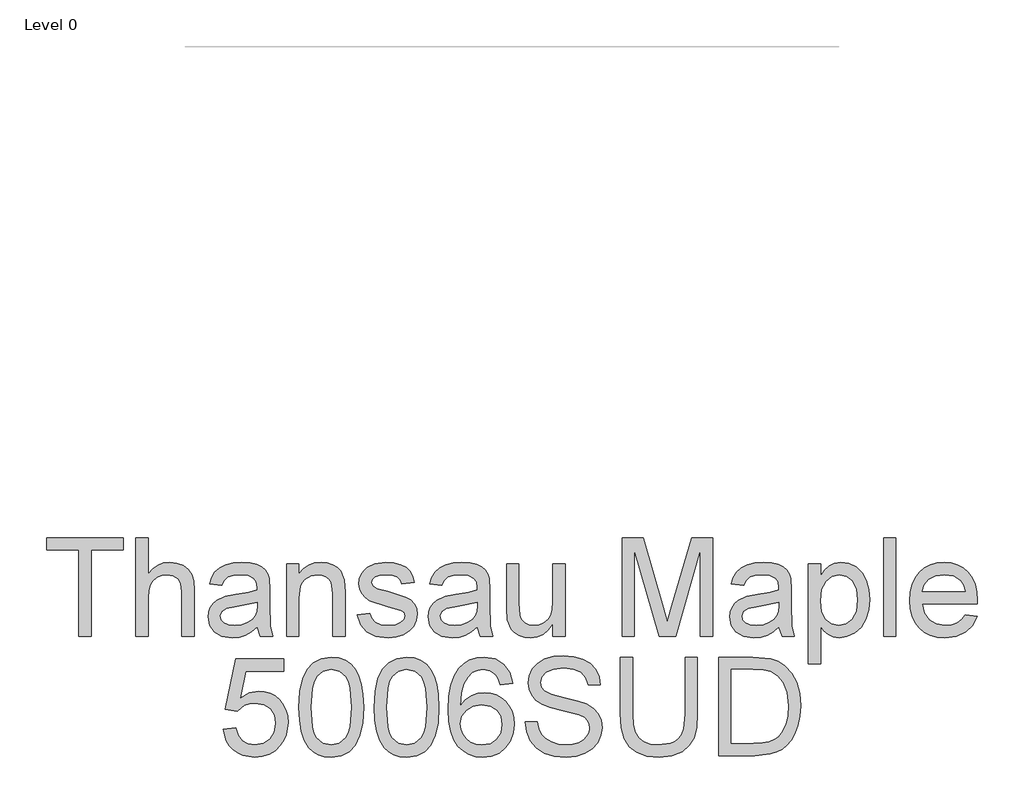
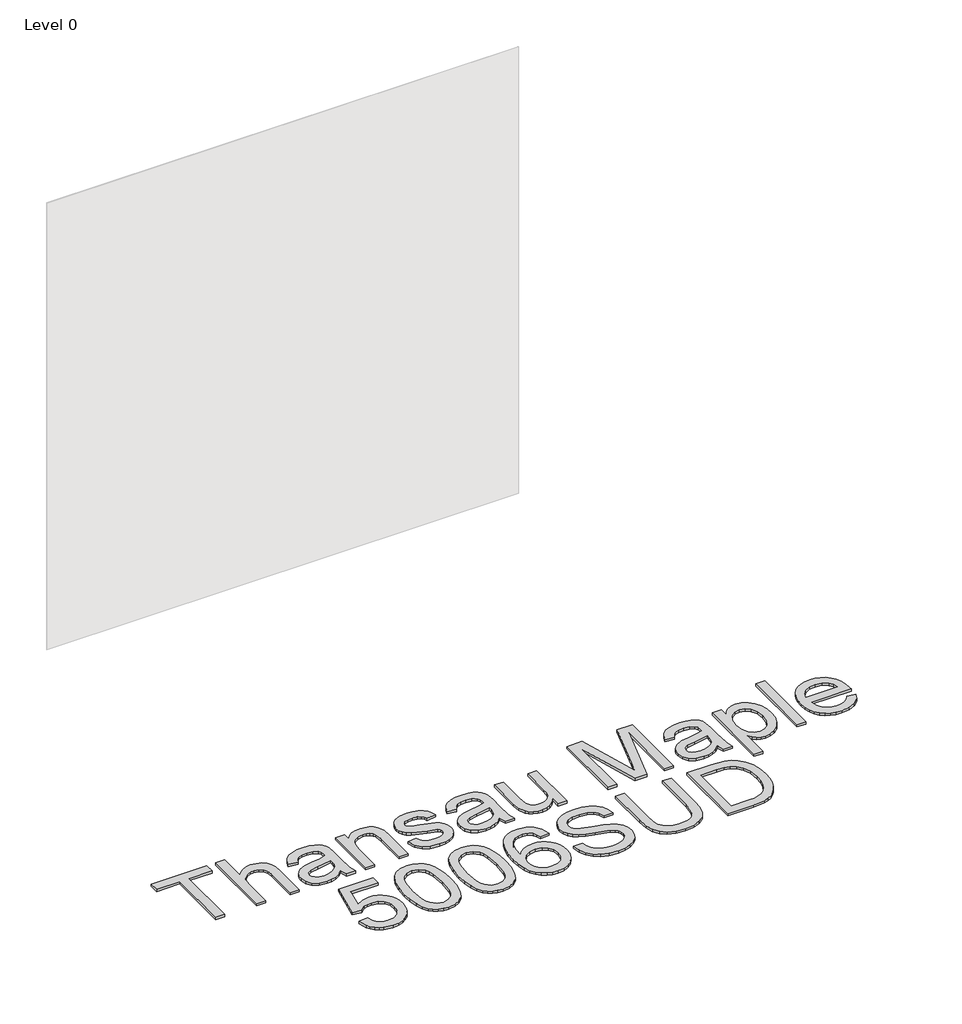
# One storey, part 29 of 43: 1 proxy.
"""IFC4 building model written with IfcOpenShell, lengths in millimetres."""

from ifc_helpers import new_model, si_unit, origin, origin_with_axes, place, context, project, spatial, polyline, outline, extrude, element, save

model = new_model("IFC4")

# Units and contexts
model_context = context("Model", 3, world=origin())
ifc_project = project(units=[si_unit("LENGTHUNIT", "METRE", prefix="MILLI")], contexts=[model_context])

# Site, building, storey
site = spatial("IfcSite", under=ifc_project)
building = spatial("IfcBuilding", under=site)
storey = spatial("IfcBuildingStorey", under=building, Name="Level 0", Elevation=0.0)

# Proxy
placement = place(None, origin())
element("IfcBuildingElementProxy", 1, Name="300mm Arial", ObjectType="300mm Arial", at=placement, inside=storey, context=model_context, shape_type="SweptSolid", body=[
    extrude(outline(polyline([(9223.7895387, -11999.860494), (9223.7895387, -11736.1626798), (9124.9028584, -11736.1626798), (9124.9028584, -11698.4915635), (9360.3473353, -11698.4915635), (9360.3473353, -11736.1626798), (9261.460655, -11736.1626798), (9261.460655, -11999.860494), (9223.7895387, -11999.860494)])), origin_with_axes(), (0.0, 0.0, 1.0), 10.0),
    extrude(outline(polyline([(9398.0184516, -11999.860494), (9398.0184516, -11698.4915635), (9435.6895679, -11698.4915635), (9435.6895679, -11809.2976205), (9449.5265294, -11793.7821973), (9465.0649452, -11782.6997522), (9482.3048152, -11776.0502852), (9501.2461394, -11773.8337961), (9523.9996408, -11776.2526203), (9543.5525689, -11783.5090926), (9558.9484304, -11795.0329961), (9569.2307321, -11810.2541137), (9575.0248736, -11831.1682051), (9576.956254, -11859.7710302), (9576.956254, -11999.860494), (9539.2851377, -11999.860494), (9539.2851377, -11863.6705794), (9536.2868995, -11840.0893435), (9527.2921847, -11823.9393239), (9512.7976341, -11814.6135153), (9493.2998883, -11811.5049125), (9477.379795, -11813.6018398), (9462.4345889, -11819.8926219), (9450.0553598, -11829.7702535), (9441.8331972, -11842.6277292), (9437.2254752, -11859.7158479), (9435.6895679, -11882.2854083), (9435.6895679, -11999.860494), (9398.0184516, -11999.860494)])), origin_with_axes(), (0.0, 0.0, 1.0), 10.0),
    extrude(outline(polyline([(9770.0207251, -11971.6071568), (9752.0220985, -11987.0398064), (9733.490043, -11997.1381672), (9714.0014943, -12002.7115794), (9693.1333881, -12004.5693835), (9661.6518864, -12000.0996173), (9638.4293354, -11986.6903186), (9624.1095288, -11966.3280501), (9619.3362599, -11940.9993748), (9621.1388817, -11925.3827841), (9626.546747, -11911.2009331), (9634.8884712, -11899.0608273), (9645.4926697, -11889.5694718), (9671.8698088, -11877.2086368), (9704.4641536, -11871.5432541), (9742.9813985, -11865.5835657), (9769.7999959, -11858.5938078), (9770.0207251, -11850.2060983), (9767.427157, -11833.3938912), (9759.6464528, -11822.3942195), (9742.2456345, -11814.2272392), (9718.002211, -11811.5049125), (9695.5614093, -11813.3167313), (9679.8896363, -11818.7521878), (9669.2026643, -11828.8045633), (9661.7162657, -11844.4671392), (9624.0451494, -11839.7582497), (9630.5842519, -11819.156858), (9640.3423218, -11802.9700502), (9654.2298671, -11790.590821), (9673.1573958, -11781.4121652), (9696.3063703, -11775.7283884), (9722.8582533, -11773.8337961), (9748.3248844, -11775.5076592), (9768.5124089, -11780.5292485), (9783.7335265, -11788.0800264), (9794.3009368, -11797.3414556), (9801.3090888, -11808.7917827), (9805.8524314, -11822.9092543), (9807.6918414, -11855.8714811), (9807.6918414, -11902.7396473), (9809.6048278, -11968.1858542), (9817.1096205, -11999.860494), (9779.4385042, -11999.860494), (9770.0207251, -11971.6071568)]), holes=[polyline([(9770.0207251, -11896.2649241), (9709.2466195, -11907.8164188), (9676.8362157, -11913.9232599), (9662.1577241, -11923.8560738), (9657.0073762, -11938.3506244), (9659.8124764, -11949.5526311), (9668.227777, -11958.7312869), (9682.0693371, -11964.8565221), (9701.1532156, -11966.8982672), (9721.3867253, -11964.64499), (9739.2657903, -11957.8851583), (9753.7603409, -11947.9247533), (9763.8403076, -11936.069756), (9768.3100738, -11923.8560738), (9769.7999959, -11906.933502), (9770.0207251, -11896.2649241)])]), origin_with_axes(), (0.0, 0.0, 1.0), 10.0),
    extrude(outline(polyline([(9859.4896263, -11999.860494), (9859.4896263, -11778.5426857), (9897.1607426, -11778.5426857), (9897.1607426, -11809.4447733), (9910.2481446, -11793.8649708), (9925.9659029, -11782.7365404), (9944.3140174, -11776.0594822), (9965.2924882, -11773.8337961), (9983.8613319, -11775.6272209), (10000.8666771, -11781.0074951), (10015.048528, -11789.303234), (10025.1468888, -11799.8430532), (10036.440866, -11827.5445674), (10038.4274288, -11863.964885), (10038.4274288, -11999.860494), (10000.7563125, -11999.860494), (10000.7563125, -11869.0416565), (9996.4153049, -11835.7115477), (9990.4096314, -11825.7879309), (9981.0746257, -11818.0900002), (9969.1092639, -11813.1511844), (9955.2125215, -11811.5049125), (9933.1487988, -11815.2021265), (9914.3408318, -11826.2937687), (9906.8245428, -11835.3482643), (9901.4557649, -11847.7228949), (9897.1607426, -11882.4325611), (9897.1607426, -11999.860494), (9859.4896263, -11999.860494)])), origin_with_axes(), (0.0, 0.0, 1.0), 10.0),
    extrude(outline(polyline([(10076.0985451, -11933.9360404), (10113.7696614, -11929.2271509), (10119.7109556, -11945.3403823), (10131.207268, -11957.1861825), (10148.3321749, -11964.470246), (10171.1592527, -11966.8982672), (10193.710419, -11964.6725811), (10209.5661329, -11957.9955229), (10218.9471238, -11948.3202265), (10222.0741208, -11937.0998256), (10218.9287297, -11927.4981055), (10209.4925565, -11920.1772538), (10170.7177943, -11909.4350996), (10113.9903906, -11891.0042116), (10099.6337957, -11881.7427824), (10089.2319323, -11869.4831149), (10082.9135591, -11855.0069584), (10080.8074346, -11839.0960621), (10082.4996918, -11824.5003439), (10087.5764633, -11811.0266659), (10095.5778967, -11799.2084568), (10106.0441395, -11789.5791455), (10129.9932574, -11778.4323211), (10162.4036612, -11773.8337961), (10186.9229961, -11775.6824032), (10208.2417578, -11781.2282242), (10225.3850587, -11789.9286334), (10237.3780118, -11801.2410048), (10245.3242629, -11816.0022698), (10250.327458, -11835.0493601), (10212.6563417, -11839.7582497), (10207.9014669, -11827.9032524), (10198.4928849, -11818.972917), (10184.3386251, -11813.3719136), (10165.3467171, -11811.5049125), (10143.7152558, -11813.2891401), (10129.2942816, -11818.6418232), (10121.1824836, -11826.3673451), (10118.4785509, -11835.2700893), (10122.9667113, -11846.2329728), (10137.0198035, -11854.5471059), (10169.4669955, -11862.5669334), (10224.7596593, -11880.2988455), (10239.3645746, -11888.7785255), (10250.4378226, -11900.3852025), (10257.4183835, -11915.1556646), (10259.7452371, -11933.1267001), (10257.0137133, -11951.7047408), (10248.8191418, -11969.1791356), (10235.4742225, -11984.1795239), (10217.2916548, -11995.3355454), (10195.3290997, -12002.260924), (10170.6442179, -12004.5693835), (10132.6604019, -12000.1180114), (10104.9404935, -11986.763895), (10086.4360292, -11964.654187), (10076.0985451, -11933.9360404)])), origin_with_axes(), (0.0, 0.0, 1.0), 10.0),
    extrude(outline(polyline([(10443.3919291, -11971.6071568), (10425.3933025, -11987.0398064), (10406.861247, -11997.1381672), (10387.3726983, -12002.7115794), (10366.5045921, -12004.5693835), (10335.0230904, -12000.0996173), (10311.8005394, -11986.6903186), (10297.4807327, -11966.3280501), (10292.7074639, -11940.9993748), (10294.5100856, -11925.3827841), (10299.917951, -11911.2009331), (10308.2596752, -11899.0608273), (10318.8638737, -11889.5694718), (10345.2410128, -11877.2086368), (10377.8353575, -11871.5432541), (10416.3526024, -11865.5835657), (10443.1711999, -11858.5938078), (10443.3919291, -11850.2060983), (10440.798361, -11833.3938912), (10433.0176568, -11822.3942195), (10415.6168384, -11814.2272392), (10391.373415, -11811.5049125), (10368.9326133, -11813.3167313), (10353.2608403, -11818.7521878), (10342.5738683, -11828.8045633), (10335.0874697, -11844.4671392), (10297.4163534, -11839.7582497), (10303.9554559, -11819.156858), (10313.7135258, -11802.9700502), (10327.6010711, -11790.590821), (10346.5285998, -11781.4121652), (10369.6775743, -11775.7283884), (10396.2294573, -11773.8337961), (10421.6960884, -11775.5076592), (10441.8836129, -11780.5292485), (10457.1047305, -11788.0800264), (10467.6721408, -11797.3414556), (10474.6802928, -11808.7917827), (10479.2236354, -11822.9092543), (10481.0630454, -11855.8714811), (10481.0630454, -11902.7396473), (10482.9760318, -11968.1858542), (10490.4808245, -11999.860494), (10452.8097082, -11999.860494), (10443.3919291, -11971.6071568)]), holes=[polyline([(10443.3919291, -11896.2649241), (10382.6178235, -11907.8164188), (10350.2074197, -11913.9232599), (10335.5289281, -11923.8560738), (10330.3785802, -11938.3506244), (10333.1836804, -11949.5526311), (10341.598981, -11958.7312869), (10355.4405411, -11964.8565221), (10374.5244196, -11966.8982672), (10394.7579293, -11964.64499), (10412.6369943, -11957.8851583), (10427.1315449, -11947.9247533), (10437.2115116, -11936.069756), (10441.6812778, -11923.8560738), (10443.1711999, -11906.933502), (10443.3919291, -11896.2649241)])]), origin_with_axes(), (0.0, 0.0, 1.0), 10.0),
    extrude(outline(polyline([(10674.1275165, -11999.860494), (10674.1275165, -11961.8214957), (10660.4974885, -11980.5236966), (10644.6233804, -11993.8824116), (10626.5051922, -12001.8976405), (10606.1429237, -12004.5693835), (10587.7948092, -12002.6931853), (10570.7158876, -11997.0645908), (10556.3868839, -11988.6033049), (10546.2885231, -11978.2290327), (10535.0681223, -11950.4907302), (10532.8608303, -11915.4683643), (10532.8608303, -11778.5426857), (10570.5319466, -11778.5426857), (10570.5319466, -11897.7364521), (10572.812815, -11936.1433324), (10578.3034538, -11948.9548229), (10587.7120358, -11958.6944987), (10600.4131617, -11964.8473251), (10615.781432, -11966.8982672), (10632.0326192, -11964.8013398), (10647.2353426, -11958.5105577), (10659.7709216, -11948.605335), (10668.0206753, -11935.6650858), (10672.6008062, -11917.9423707), (10674.1275165, -11893.6897502), (10674.1275165, -11778.5426857), (10711.7986328, -11778.5426857), (10711.7986328, -11999.860494), (10674.1275165, -11999.860494)])), origin_with_axes(), (0.0, 0.0, 1.0), 10.0),
    extrude(outline(polyline([(10886.0275457, -11999.860494), (10886.0275457, -11698.4915635), (10950.8483532, -11698.4915635), (11012.5053756, -11910.9066275), (11024.9397871, -11955.2731962), (11038.4042681, -11907.2278076), (11099.0312209, -11698.4915635), (11163.8520284, -11698.4915635), (11163.8520284, -11999.860494), (11126.1809121, -11999.860494), (11126.1809121, -11736.1626798), (11050.4707975, -11999.860494), (10999.4087766, -11999.860494), (10923.698662, -11736.1626798), (10923.698662, -11999.860494), (10886.0275457, -11999.860494)])), origin_with_axes(), (0.0, 0.0, 1.0), 10.0),
    extrude(outline(polyline([(11366.3342786, -11971.6071568), (11348.335652, -11987.0398064), (11329.8035965, -11997.1381672), (11310.3150478, -12002.7115794), (11289.4469416, -12004.5693835), (11257.9654399, -12000.0996173), (11234.7428889, -11986.6903186), (11220.4230822, -11966.3280501), (11215.6498134, -11940.9993748), (11217.4524351, -11925.3827841), (11222.8603005, -11911.2009331), (11231.2020247, -11899.0608273), (11241.8062232, -11889.5694718), (11268.1833623, -11877.2086368), (11300.777707, -11871.5432541), (11339.2949519, -11865.5835657), (11366.1135494, -11858.5938078), (11366.3342786, -11850.2060983), (11363.7407105, -11833.3938912), (11355.9600063, -11822.3942195), (11338.5591879, -11814.2272392), (11314.3157645, -11811.5049125), (11291.8749628, -11813.3167313), (11276.2031898, -11818.7521878), (11265.5162178, -11828.8045633), (11258.0298192, -11844.4671392), (11220.3587029, -11839.7582497), (11226.8978054, -11819.156858), (11236.6558753, -11802.9700502), (11250.5434206, -11790.590821), (11269.4709493, -11781.4121652), (11292.6199238, -11775.7283884), (11319.1718068, -11773.8337961), (11344.6384379, -11775.5076592), (11364.8259624, -11780.5292485), (11380.04708, -11788.0800264), (11390.6144903, -11797.3414556), (11397.6226423, -11808.7917827), (11402.1659849, -11822.9092543), (11404.0053949, -11855.8714811), (11404.0053949, -11902.7396473), (11405.9183813, -11968.1858542), (11413.423174, -11999.860494), (11375.7520577, -11999.860494), (11366.3342786, -11971.6071568)]), holes=[polyline([(11366.3342786, -11896.2649241), (11305.560173, -11907.8164188), (11273.1497692, -11913.9232599), (11258.4712776, -11923.8560738), (11253.3209297, -11938.3506244), (11256.1260299, -11949.5526311), (11264.5413305, -11958.7312869), (11278.3828906, -11964.8565221), (11297.4667691, -11966.8982672), (11317.7002788, -11964.64499), (11335.5793438, -11957.8851583), (11350.0738944, -11947.9247533), (11360.1538611, -11936.069756), (11364.6236273, -11923.8560738), (11366.1135494, -11906.933502), (11366.3342786, -11896.2649241)])]), origin_with_axes(), (0.0, 0.0, 1.0), 10.0),
    extrude(outline(polyline([(11455.8031798, -12084.6205057), (11455.8031798, -11778.5426857), (11493.4742961, -11778.5426857), (11493.4742961, -11815.478038), (11505.7615548, -11797.2586822), (11519.5203414, -11784.2448566), (11535.5599964, -11776.4365613), (11554.6898601, -11773.8337961), (11580.1656883, -11777.4758279), (11602.4409431, -11788.4019232), (11620.5775254, -11805.9498943), (11633.6373363, -11829.4575538), (11641.5284051, -11857.2142504), (11644.1587613, -11887.5093327), (11641.1881142, -11919.7265984), (11632.2761729, -11948.5409557), (11617.7080459, -11972.4900735), (11597.7688417, -11990.1116211), (11574.5462908, -12000.9549429), (11550.1281234, -12004.5693835), (11532.8100784, -12002.1505594), (11517.3498376, -11994.894087), (11504.1152828, -11983.9404006), (11493.4742961, -11970.4299344), (11493.4742961, -12084.6205057), (11455.8031798, -12084.6205057)]), holes=[polyline([(11493.4742961, -11890.9674234), (11497.5485892, -11924.7389906), (11509.7714685, -11948.3570147), (11527.8068833, -11962.2629541), (11549.318783, -11966.8982672), (11571.1801705, -11962.0974072), (11589.6754379, -11947.6948271), (11602.2845932, -11923.2122803), (11606.487645, -11888.1715202), (11602.3857608, -11854.5838941), (11590.080108, -11830.6347762), (11572.0722844, -11816.2873784), (11550.8638874, -11811.5049125), (11529.5727169, -11816.590881), (11510.8751145, -11831.8487868), (11497.8245007, -11856.8003831), (11493.4742961, -11890.9674234)])]), origin_with_axes(), (0.0, 0.0, 1.0), 10.0),
    extrude(outline(polyline([(11686.5387672, -11999.860494), (11686.5387672, -11698.4915635), (11724.2098835, -11698.4915635), (11724.2098835, -11999.860494), (11686.5387672, -11999.860494)])), origin_with_axes(), (0.0, 0.0, 1.0), 10.0),
    extrude(outline(polyline([(11935.6684543, -11933.9360404), (11972.6038066, -11938.64493), (11959.2956755, -11966.4752029), (11938.0596873, -11987.2789297), (11909.3740887, -12000.2467701), (11873.7171263, -12004.5693835), (11850.3428241, -12002.7046817), (11829.5161046, -11997.1105761), (11811.236968, -11987.7870668), (11795.5054142, -11974.7341537), (11782.854872, -11958.3151204), (11773.8187705, -11938.8932503), (11768.3971096, -11916.4685435), (11766.5898893, -11891.0409998), (11768.4155037, -11864.7512327), (11773.8923469, -11841.5792656), (11783.0204189, -11821.5250983), (11795.7997198, -11804.5887309), (11811.4898868, -11791.133447), (11829.3505577, -11781.5225298), (11849.3817323, -11775.7559796), (11871.5834108, -11773.8337961), (11893.0700185, -11775.751381), (11912.5010857, -11781.5041357), (11929.8766122, -11791.0920602), (11945.196598, -11804.5151545), (11957.7022866, -11821.4147337), (11966.6349213, -11841.4321128), (11971.9945021, -11864.5672917), (11973.781029, -11890.8202706), (11973.5602998, -11900.9738137), (11804.2610056, -11900.9738137), (11810.781714, -11929.1719686), (11825.9292552, -11949.902119), (11847.7906427, -11962.6492302), (11874.4528903, -11966.8982672), (11894.5024591, -11964.9300985), (11911.3882426, -11959.0255925), (11925.1102411, -11948.8168672), (11935.6684543, -11933.9360404)]), holes=[polyline([(11804.2610056, -11863.3026974), (11936.1099127, -11863.3026974), (11931.0147471, -11843.4002814), (11921.0267509, -11829.1632482), (11899.0641958, -11815.9194964), (11871.436258, -11811.5049125), (11846.0432032, -11815.0273826), (11825.0463384, -11825.5947929), (11810.4506202, -11842.0667092), (11804.2610056, -11863.3026974)])]), origin_with_axes(), (0.0, 0.0, 1.0), 10.0),
    extrude(outline(polyline([(9666.4251553, -12285.7338254), (9704.0962716, -12281.0249358), (9711.0124531, -12303.6404815), (9723.0789825, -12319.8364863), (9740.2406776, -12329.5761621), (9762.442356, -12332.8227207), (9789.4448945, -12328.3069693), (9809.6784042, -12314.7597148), (9822.3151507, -12293.7444558), (9826.5273996, -12266.8246908), (9822.5818652, -12241.4776213), (9810.745262, -12222.0902402), (9790.9256195, -12209.7845875), (9763.0309672, -12205.6827032), (9744.7564291, -12207.3197781), (9729.9583758, -12212.2310027), (9708.8051611, -12229.2271509), (9671.1340448, -12224.5182614), (9704.0962716, -12069.1249066), (9850.0718473, -12069.1249066), (9850.0718473, -12106.7960229), (9734.5569008, -12106.7960229), (9718.4436694, -12189.790201), (9745.3542373, -12173.4562404), (9773.5523923, -12168.0115869), (9791.8982075, -12169.6992456), (9808.7495022, -12174.7622215), (9824.1062762, -12183.2005148), (9837.9685296, -12195.0141254), (9849.4441486, -12209.4810848), (9857.6410193, -12225.8794248), (9862.5591417, -12244.2091452), (9864.1985159, -12264.470246), (9858.2940099, -12302.1413624), (9850.9133773, -12318.9351754), (9840.5804918, -12334.3678251), (9824.9271129, -12350.1729553), (9806.6617718, -12361.4623341), (9785.7844686, -12368.2359613), (9762.2952032, -12370.4938371), (9725.2954715, -12364.6904986), (9709.6168008, -12357.4363255), (9695.8189267, -12347.2804832), (9684.3387092, -12334.7288093), (9675.6130081, -12320.2871418), (9666.4251553, -12285.7338254)])), origin_with_axes(), (0.0, 0.0, 1.0), 10.0),
    extrude(outline(polyline([(9897.1607426, -12217.5285035), (9899.9290547, -12169.2899768), (9908.2339907, -12130.8187172), (9921.9927773, -12101.5261133), (9941.1226411, -12080.8235541), (9965.7615377, -12068.5179013), (9996.0474229, -12064.4160171), (10019.2607768, -12066.8440382), (10040.0461096, -12074.1281017), (10057.4285338, -12085.983099), (10070.4331624, -12102.1239216), (10080.2556116, -12122.4126136), (10088.0914981, -12146.7112194), (10093.223452, -12177.5673217), (10094.9341033, -12217.5285035), (10092.1933824, -12265.4911186), (10083.9712198, -12303.8704077), (10070.2952066, -12333.1906027), (10051.192934, -12353.9759355), (10026.4988551, -12366.3643617), (9996.0474229, -12370.4938371), (9975.2988784, -12368.7004123), (9956.9047787, -12363.3201381), (9940.8651237, -12354.3530145), (9927.1799134, -12341.7990414), (9914.0465262, -12319.1053209), (9904.6655353, -12290.828991), (9899.0369408, -12256.9700519), (9897.1607426, -12217.5285035)]), holes=[polyline([(9934.8318589, -12217.4549271), (9939.2464429, -12276.7115194), (9944.7646728, -12296.9795181), (9952.4901947, -12311.0073184), (9972.2086697, -12327.3688702), (9996.0474229, -12332.8227207), (10019.8861762, -12327.3504761), (10039.6046512, -12310.933742), (10047.3301731, -12296.8829491), (10052.848403, -12276.6195489), (10057.2629869, -12217.4549271), (10052.9955558, -12159.5319069), (10047.6612669, -12139.3305869), (10040.1932624, -12124.9693935), (10020.5115756, -12107.8076984), (9995.6059646, -12102.0871334), (9972.0247287, -12107.1271167), (9953.0788059, -12122.2470667), (9945.0957666, -12137.8820515), (9939.3935957, -12158.9616898), (9934.8318589, -12217.4549271)])]), origin_with_axes(), (0.0, 0.0, 1.0), 10.0),
    extrude(outline(polyline([(10127.89633, -12217.5285035), (10130.664642, -12169.2899768), (10138.9695781, -12130.8187172), (10152.7283647, -12101.5261133), (10171.8582284, -12080.8235541), (10196.4971251, -12068.5179013), (10226.7830103, -12064.4160171), (10249.9963642, -12066.8440382), (10270.7816969, -12074.1281017), (10288.1641212, -12085.983099), (10301.1687497, -12102.1239216), (10310.991199, -12122.4126136), (10318.8270855, -12146.7112194), (10323.9590393, -12177.5673217), (10325.6696906, -12217.5285035), (10322.9289698, -12265.4911186), (10314.7068072, -12303.8704077), (10301.030794, -12333.1906027), (10281.9285214, -12353.9759355), (10257.2344425, -12366.3643617), (10226.7830103, -12370.4938371), (10206.0344658, -12368.7004123), (10187.640366, -12363.3201381), (10171.600711, -12354.3530145), (10157.9155008, -12341.7990414), (10144.7821136, -12319.1053209), (10135.4011227, -12290.828991), (10129.7725282, -12256.9700519), (10127.89633, -12217.5285035)]), holes=[polyline([(10165.5674463, -12217.4549271), (10169.9820303, -12276.7115194), (10175.5002602, -12296.9795181), (10183.2257821, -12311.0073184), (10202.944257, -12327.3688702), (10226.7830103, -12332.8227207), (10250.6217636, -12327.3504761), (10270.3402386, -12310.933742), (10278.0657604, -12296.8829491), (10283.5839904, -12276.6195489), (10287.9985743, -12217.4549271), (10283.7311432, -12159.5319069), (10278.3968542, -12139.3305869), (10270.9288497, -12124.9693935), (10251.247163, -12107.8076984), (10226.3415519, -12102.0871334), (10202.760316, -12107.1271167), (10183.8143933, -12122.2470667), (10175.831354, -12137.8820515), (10170.1291831, -12158.9616898), (10165.5674463, -12217.4549271)])]), origin_with_axes(), (0.0, 0.0, 1.0), 10.0),
    extrude(outline(polyline([(10551.6963885, -12144.4671392), (10514.0252722, -12149.1760288), (10507.9552192, -12130.5060175), (10499.7514507, -12117.7589064), (10482.6633321, -12106.0050766), (10462.006758, -12102.0871334), (10444.4955751, -12104.3680017), (10428.0144617, -12111.2106069), (10413.8602019, -12125.622384), (10402.2995102, -12145.4604206), (10394.4912149, -12173.5206198), (10391.5941442, -12212.5988847), (10406.7048971, -12194.9681401), (10424.8138883, -12182.5429257), (10444.9094423, -12175.1760888), (10465.9798836, -12172.7204764), (10484.0796777, -12174.3989381), (10500.7815203, -12179.4343229), (10516.0854113, -12187.8266309), (10529.9913507, -12199.5758621), (10541.5474439, -12213.9830407), (10549.8017962, -12230.349191), (10554.7544075, -12248.6743129), (10556.405278, -12268.9584064), (10553.2966751, -12295.9333537), (10543.9708666, -12320.9401323), (10529.2004045, -12342.1485293), (10509.757841, -12357.7283318), (10486.526093, -12367.3024607), (10460.3880773, -12370.4938371), (10437.9311807, -12368.3785156), (10417.6493865, -12362.0325512), (10399.5426945, -12351.4559438), (10383.6111049, -12336.6486935), (10370.6225712, -12316.9854009), (10361.3450471, -12291.8406665), (10355.7785327, -12261.2144904), (10353.9230279, -12225.1068726), (10355.983167, -12184.6260575), (10362.1635845, -12150.0773396), (10372.4642804, -12121.4607189), (10386.8852546, -12098.7761954), (10402.5156409, -12083.7436174), (10420.6384277, -12073.0060617), (10441.253615, -12066.5635282), (10464.3612028, -12064.4160171), (10497.4154001, -12069.7319119), (10523.8845096, -12085.6795964), (10542.4257622, -12111.0082718), (10551.6963885, -12144.4671392)]), holes=[polyline([(10391.5941442, -12268.3697952), (10393.773845, -12285.0624407), (10400.3129474, -12301.0009282), (10410.4664905, -12314.7045325), (10423.4895131, -12324.6925287), (10439.2072714, -12330.7901727), (10457.4450213, -12332.8227207), (10482.3046471, -12328.6104719), (10501.8483781, -12315.9737254), (10514.5127158, -12296.1080976), (10518.7341617, -12270.2092052), (10514.5678981, -12245.3495793), (10502.0691073, -12226.3944595), (10482.1942825, -12214.3923095), (10455.8999169, -12210.3915928), (10431.0770793, -12214.3923095), (10410.3193377, -12226.3944595), (10396.2754425, -12244.8897269), (10391.5941442, -12268.3697952)])]), origin_with_axes(), (0.0, 0.0, 1.0), 10.0),
    extrude(outline(polyline([(10589.3675048, -12262.1893777), (10627.0386211, -12262.1893777), (10631.3612345, -12283.0942721), (10639.1787269, -12299.8972822), (10651.3740151, -12313.2330045), (10668.8300157, -12323.7360355), (10690.1671714, -12330.5510494), (10714.0059247, -12332.8227207), (10734.9935926, -12331.1028724), (10753.3692982, -12325.9433274), (10768.259322, -12317.7763471), (10778.7899441, -12307.0341929), (10785.0531351, -12294.700949), (10787.1408654, -12281.7606998), (10785.5773669, -12269.1515444), (10780.8868715, -12258.2530403), (10771.3587278, -12248.9548229), (10755.2822846, -12241.1465276), (10700.4310791, -12226.7623415), (10664.4246288, -12217.2433949), (10641.3860189, -12208.1843008), (10622.6332342, -12195.510766), (10609.3434971, -12180.1516928), (10601.4248372, -12162.4381747), (10598.7852838, -12142.7013056), (10602.0502366, -12120.637583), (10611.8450947, -12100.0637824), (10627.9123408, -12082.6261758), (10649.9944576, -12069.9710352), (10676.5003553, -12062.2731044), (10705.8389444, -12059.7071275), (10737.6239488, -12062.3926661), (10765.4358277, -12070.4492818), (10788.2812996, -12083.7114277), (10805.1670831, -12102.013557), (10815.8540551, -12124.2152354), (10820.1030921, -12149.1760288), (10782.4319758, -12149.1760288), (10775.5157943, -12126.6984389), (10761.0948201, -12110.4748429), (10738.5620479, -12100.6523936), (10707.3104724, -12097.3782438), (10675.3231329, -12100.6156054), (10653.3789719, -12110.3276901), (10640.6870431, -12124.6199056), (10636.4564002, -12141.5976597), (10639.4546384, -12156.0738162), (10648.4493532, -12167.7172813), (10669.7129325, -12178.1283418), (10709.9592228, -12188.7601314), (10751.4931, -12198.8584922), (10776.6194403, -12207.669266), (10798.0945518, -12221.3360821), (10813.076546, -12238.2034716), (10821.8781228, -12258.0874934), (10824.8119817, -12280.8042066), (10821.4366644, -12304.0267576), (10811.3107125, -12325.869751), (10794.8479932, -12344.668521), (10772.4623738, -12358.7584014), (10745.5426088, -12367.5599781), (10715.4774527, -12370.4938371), (10678.5696915, -12367.3300519), (10648.1918358, -12357.8386964), (10623.9943976, -12341.9829824), (10605.627889, -12319.7261217), (10593.837271, -12292.6132187), (10589.3675048, -12262.1893777)])), origin_with_axes(), (0.0, 0.0, 1.0), 10.0),
    extrude(outline(polyline([(11079.0920167, -12064.4160171), (11116.7631331, -12064.4160171), (11116.7631331, -12238.277048), (11114.2063532, -12278.9923878), (11106.5360136, -12310.3451308), (11092.2070099, -12334.533372), (11069.6742377, -12353.7552063), (11038.8825147, -12366.3091794), (10999.7766586, -12370.4938371), (10961.5261281, -12366.8518053), (10930.9459373, -12355.92571), (10908.026889, -12338.0926303), (10892.7597862, -12313.7296452), (10884.1789387, -12281.052527), (10881.3186561, -12238.277048), (10881.3186561, -12064.4160171), (10918.9897724, -12064.4160171), (10918.9897724, -12236.9526728), (10920.8475765, -12270.8070134), (10926.4209887, -12294.3790523), (10936.5193495, -12310.7038158), (10951.9519992, -12322.8163305), (10972.0751444, -12330.3211232), (10996.2449914, -12332.8227207), (11034.5599012, -12327.8747079), (11048.9027005, -12321.6896919), (11060.0357294, -12313.0306694), (11068.3728551, -12300.8537754), (11074.3279449, -12284.1151446), (11079.0920167, -12236.9526728), (11079.0920167, -12064.4160171)])), origin_with_axes(), (0.0, 0.0, 1.0), 10.0),
    extrude(outline(polyline([(11182.6875866, -12365.7849475), (11182.6875866, -12064.4160171), (11286.6510384, -12064.4160171), (11340.4353861, -12068.7570246), (11364.4580804, -12077.12634), (11384.7283783, -12090.3149095), (11405.5688934, -12113.270746), (11420.4129319, -12141.8183889), (11429.2972821, -12175.406015), (11432.2587321, -12213.4818015), (11430.2537752, -12245.8278259), (11424.2389046, -12274.2926953), (11415.0786429, -12298.5269217), (11403.6375129, -12318.1810173), (11390.4673375, -12333.6964405), (11376.1199397, -12345.5146496), (11359.6480233, -12354.2794381), (11340.1042923, -12360.6345996), (11291.6542336, -12365.7849475), (11182.6875866, -12365.7849475)]), holes=[polyline([(11220.3587029, -12328.1138312), (11287.0189204, -12328.1138312), (11314.591676, -12326.7526678), (11335.5057674, -12322.6691777), (11351.287905, -12316.1024841), (11363.464799, -12307.2917103), (11376.552201, -12290.9853408), (11386.3838473, -12269.8781114), (11392.5366737, -12243.8780514), (11394.5876158, -12212.8931903), (11390.568505, -12171.8375597), (11378.5111726, -12141.5240833), (11360.696487, -12120.7019623), (11339.4053165, -12108.1203981), (11317.737067, -12103.5954496), (11285.9888508, -12102.0871334), (11220.3587029, -12102.0871334), (11220.3587029, -12328.1138312)])]), origin_with_axes(), (0.0, 0.0, 1.0), 10.0),
])

save(model, "model.ifc")
